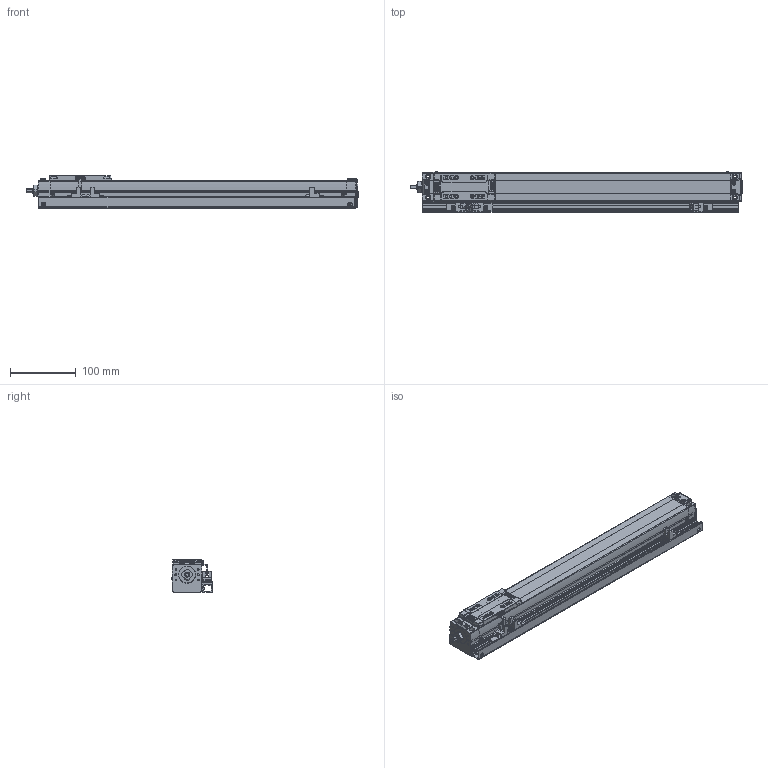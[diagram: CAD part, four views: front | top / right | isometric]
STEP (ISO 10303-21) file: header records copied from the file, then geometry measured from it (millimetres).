
FILE_DESCRIPTION(('STEP AP214'),'1');
FILE_NAME('Z:/Web/3D/SAN45/STP/SAN45ㅁㅁ-350+3SR.stp','2012-06-15T05:43:53',(' '),(' '),'Spatial InterOp 3D',' ',' ');
FILE_SCHEMA(('automotive_design'));
Length unit declared in the file: metre
Products named in the file (51): SAN45__-350; BODY-SAN45; REAR-SAN45; RRCV-SAN45; BHCS M3 x 6L; BHCS M3 X 6L; FRONT-SAN45; SHAFT; RN8 x 0.75; SSFX-SAN45; SLIDE-SAN45; SLCV-IM45; FHCS M3 x 6L; ____81; 3SR; SRL-16x17-380L; - OT; EE-SX674; SBK-SX674-352; HOME; + OT; DOG; SDG-SA45; SCREW M3 x 5L
Assembly tree (50 placements, depth 4):
  ____81
    SAN45__-350
      BODY-SAN45
      REAR-SAN45
        REAR-SAN45
        RRCV-SAN45
        BHCS M3 x 6L
        BHCS M3 X 6L
        BHCS M3 x 6L
        BHCS M3 x 6L
        BHCS M3 x 6L
        BHCS M3 x 6L
      FRONT-SAN45
        FRONT-SAN45
        SHAFT
        RN8 x 0.75
        SSFX-SAN45
        BHCS M3 x 6L
        BHCS M3 x 6L
        BHCS M3 x 6L
        BHCS M3 x 6L
      SLIDE-SAN45
        SLIDE-SAN45
        SLCV-IM45
        FHCS M3 x 6L
        FHCS M3 x 6L
        FHCS M3 x 6L
        FHCS M3 x 6L
    3SR
      SRL-16x17-380L
      BHCS M3 x 6L
      BHCS M3 x 6L
      - OT
        EE-SX674
        BHCS M3 x 6L
        BHCS M3 x 6L
        SBK-SX674-352
      HOME
        EE-SX674
        BHCS M3 x 6L
        BHCS M3 x 6L
        SBK-SX674-352
      + OT
        EE-SX674
        BHCS M3 x 6L
        BHCS M3 x 6L
        SBK-SX674-352
      DOG
        SDG-SA45
        SCREW M3 x 5L
        SCREW M3 x 5L
Bounding box: 504.65 x 62.06 x 50 mm (x, y, z)
Volume: 949757.8 mm3; surface area: 200325.1 mm2
Topology: 41 solids, 41 shells, 1936 faces, 4926 edges, 3171 vertices
Faces by surface type: plane 1239, cylinder 496, cone 79, sphere 52, bspline 42, torus 25, extrusion 3
Full cylindrical faces by diameter (mm): 0.376 x2, 0.47 x1, 1.137 x2, 1.421 x1, 1.665 x4, 2.081 x2, 2.2 x4, 2.5 x19, 3 x6, 3.193 x4, 3.3 x4, 3.4 x4, 3.5 x14, 3.991 x2, 4.2 x11, 4.5 x4, 5 x3, 6 x6, 6.5 x2, 7 x1, 8 x8, 13 x1, 15 x1, 19 x1
Entity records: 77173 total; most frequent: CARTESIAN_POINT 14129, DIRECTION 9727, ORIENTED_EDGE 9262, EDGE_CURVE 4631, VECTOR 3247, LINE 3244, AXIS2_PLACEMENT_3D 3240, VERTEX_POINT 3118
